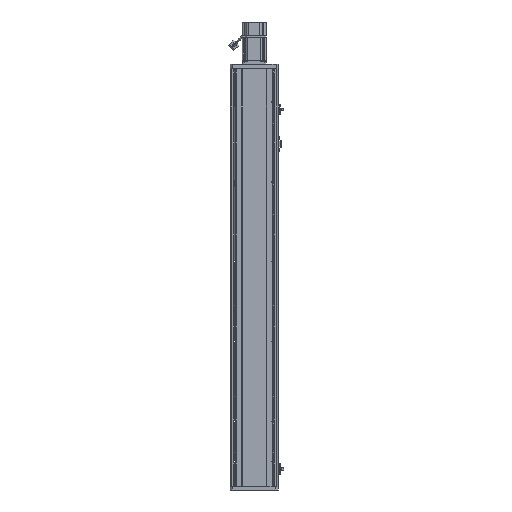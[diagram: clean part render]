
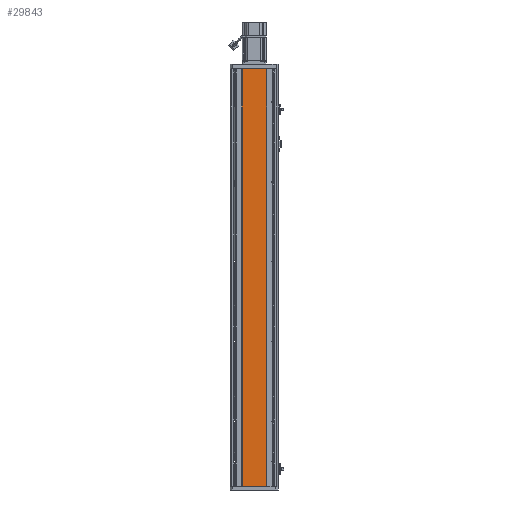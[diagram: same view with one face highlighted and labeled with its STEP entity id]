
A CAD part, front view. The second image highlights one B-rep face of the part: STEP entity #29843.
In plain terms, the highlighted planar face has unit normal (0, -1, 0).
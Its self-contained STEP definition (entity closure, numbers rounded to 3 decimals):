
#55 = CARTESIAN_POINT ( 'NONE',  ( 30., 0., 0. ) ) ;
#535 = ORIENTED_EDGE ( 'NONE', *, *, #60136, .T. ) ;
#2377 = VERTEX_POINT ( 'NONE', #92166 ) ;
#15230 = LINE ( 'NONE', #73286, #57528 ) ;
#17297 = CARTESIAN_POINT ( 'NONE',  ( -30., 0., 0. ) ) ;
#19741 = CARTESIAN_POINT ( 'NONE',  ( 30., 0., -1046.5 ) ) ;
#21607 = VERTEX_POINT ( 'NONE', #17297 ) ;
#26294 = ORIENTED_EDGE ( 'NONE', *, *, #116561, .F. ) ;
#29843 = ADVANCED_FACE ( 'NONE', ( #31658 ), #100764, .F. ) ;
#31658 = FACE_OUTER_BOUND ( 'NONE', #52245, .T. ) ;
#41609 = ORIENTED_EDGE ( 'NONE', *, *, #43714, .T. ) ;
#43714 = EDGE_CURVE ( 'NONE', #52156, #103617, #15230, .T. ) ;
#46676 = LINE ( 'NONE', #103827, #67803 ) ;
#46936 = DIRECTION ( 'NONE',  ( 0., 1., 0. ) ) ;
#47209 = AXIS2_PLACEMENT_3D ( 'NONE', #19741, #46936, #109845 ) ;
#49644 = CARTESIAN_POINT ( 'NONE',  ( 30., 0., -1046.5 ) ) ;
#50211 = VECTOR ( 'NONE', #77742, 1000. ) ;
#50335 = DIRECTION ( 'NONE',  ( 0., 0., 1. ) ) ;
#52156 = VERTEX_POINT ( 'NONE', #49644 ) ;
#52245 = EDGE_LOOP ( 'NONE', ( #535, #92831, #26294, #41609 ) ) ;
#52572 = LINE ( 'NONE', #102096, #70877 ) ;
#57288 = DIRECTION ( 'NONE',  ( -1., 0., 0. ) ) ;
#57528 = VECTOR ( 'NONE', #82309, 1000. ) ;
#60136 = EDGE_CURVE ( 'NONE', #103617, #21607, #52572, .T. ) ;
#67803 = VECTOR ( 'NONE', #50335, 1000. ) ;
#70877 = VECTOR ( 'NONE', #57288, 1000. ) ;
#73286 = CARTESIAN_POINT ( 'NONE',  ( 30., 0., -1046.5 ) ) ;
#74895 = EDGE_CURVE ( 'NONE', #2377, #21607, #46676, .T. ) ;
#77742 = DIRECTION ( 'NONE',  ( -1., 0., 0. ) ) ;
#82309 = DIRECTION ( 'NONE',  ( 0., 0., 1. ) ) ;
#92166 = CARTESIAN_POINT ( 'NONE',  ( -30., 0., -1046.5 ) ) ;
#92831 = ORIENTED_EDGE ( 'NONE', *, *, #74895, .F. ) ;
#96225 = CARTESIAN_POINT ( 'NONE',  ( 30., 0., -1046.5 ) ) ;
#97995 = LINE ( 'NONE', #96225, #50211 ) ;
#100764 = PLANE ( 'NONE',  #47209 ) ;
#102096 = CARTESIAN_POINT ( 'NONE',  ( 30., 0., 0. ) ) ;
#103617 = VERTEX_POINT ( 'NONE', #55 ) ;
#103827 = CARTESIAN_POINT ( 'NONE',  ( -30., 0., -1046.5 ) ) ;
#109845 = DIRECTION ( 'NONE',  ( -1., 0., 0. ) ) ;
#116561 = EDGE_CURVE ( 'NONE', #52156, #2377, #97995, .T. ) ;
